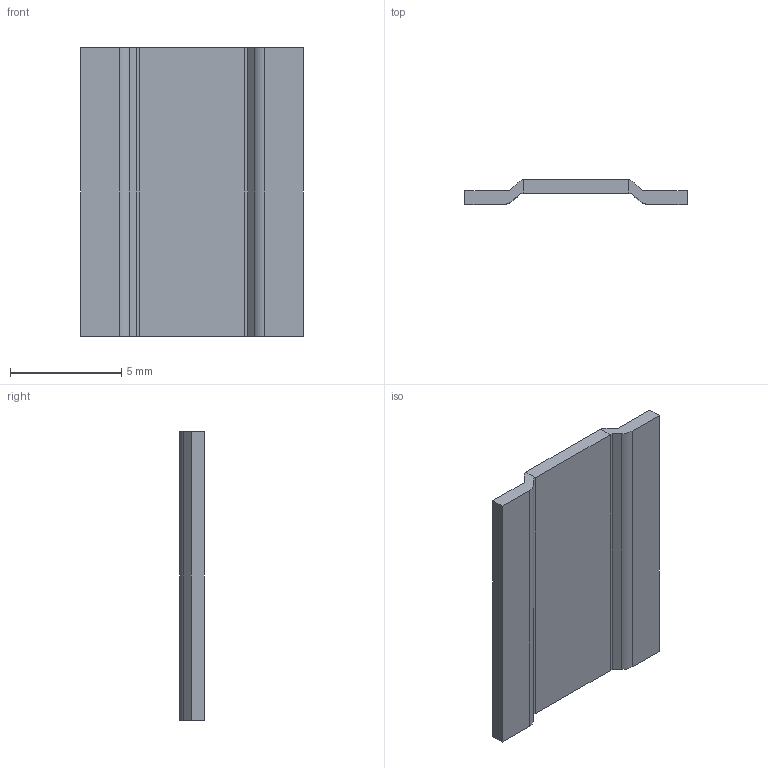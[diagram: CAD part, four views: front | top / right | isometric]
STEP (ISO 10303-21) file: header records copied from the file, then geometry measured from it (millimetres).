
FILE_DESCRIPTION (( 'STEP AP203' ), '1' );
FILE_NAME ('SEWF3951-0.8m¦¸.STEP', '2023-11-22T07:48:43', ( 'meks@163.com' ), ( '' ), 'SwSTEP 2.0', 'SolidWorks 2020', '' );
FILE_SCHEMA (( 'CONFIG_CONTROL_DESIGN' ));
Length unit declared in the file: millimetre
Products named in the file (1): SEWF3951-0.8m次
Bounding box: 10 x 1.12 x 13 mm (x, y, z)
Volume: 79 mm3; surface area: 329.8 mm2
Topology: 3 solids, 3 shells, 28 faces, 66 edges, 44 vertices
Faces by surface type: plane 24, cylinder 4
Entity records: 871 total; most frequent: CARTESIAN_POINT 139, DIRECTION 132, ORIENTED_EDGE 132, EDGE_CURVE 66, VECTOR 58, LINE 58, VERTEX_POINT 44, AXIS2_PLACEMENT_3D 37
